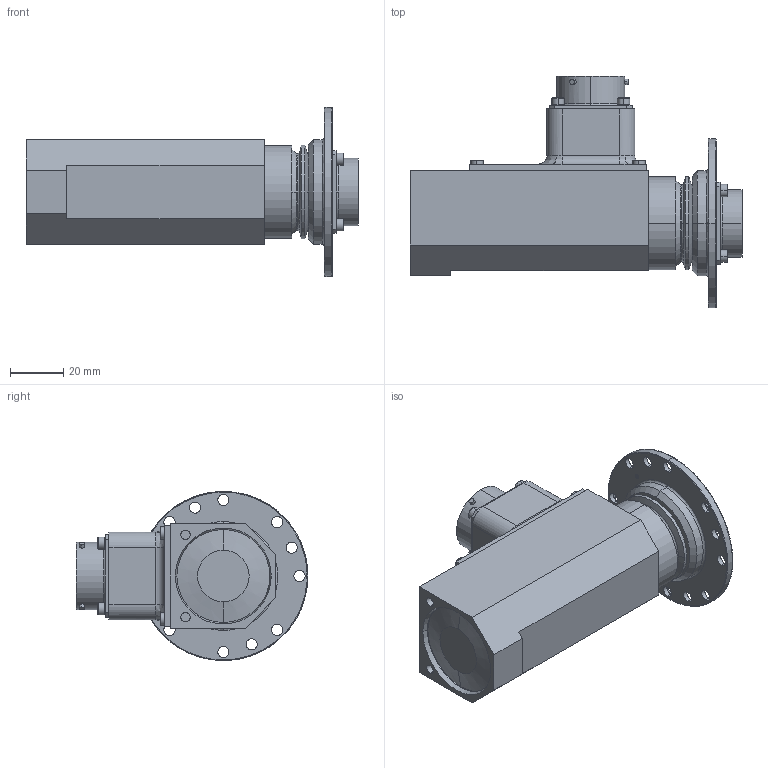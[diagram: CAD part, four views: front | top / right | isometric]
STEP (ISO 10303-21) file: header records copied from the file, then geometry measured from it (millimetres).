
FILE_DESCRIPTION (( 'STEP AP203' ), '1' );
FILE_NAME ('1007903.STEP', '2017-06-16T19:27:39', ( '' ), ( '' ), 'SwSTEP 2.0', 'SolidWorks 2014', '' );
FILE_SCHEMA (( 'CONFIG_CONTROL_DESIGN' ));
Length unit declared in the file: inch
Products named in the file (1): 1007903
Bounding box: 124.63 x 87.01 x 63.47 mm (x, y, z)
Volume: 188304.5 mm3; surface area: 35679.8 mm2
Topology: 1 solids, 9 shells, 953 faces, 2353 edges, 1448 vertices
Faces by surface type: cylinder 466, plane 233, cone 204, bspline 40, torus 6, sphere 4
Entity records: 39773 total; most frequent: CARTESIAN_POINT 18460, ORIENTED_EDGE 4604, DIRECTION 4272, EDGE_CURVE 2302, AXIS2_PLACEMENT_3D 1704, VERTEX_POINT 1446, EDGE_LOOP 1072, FACE_OUTER_BOUND 953
